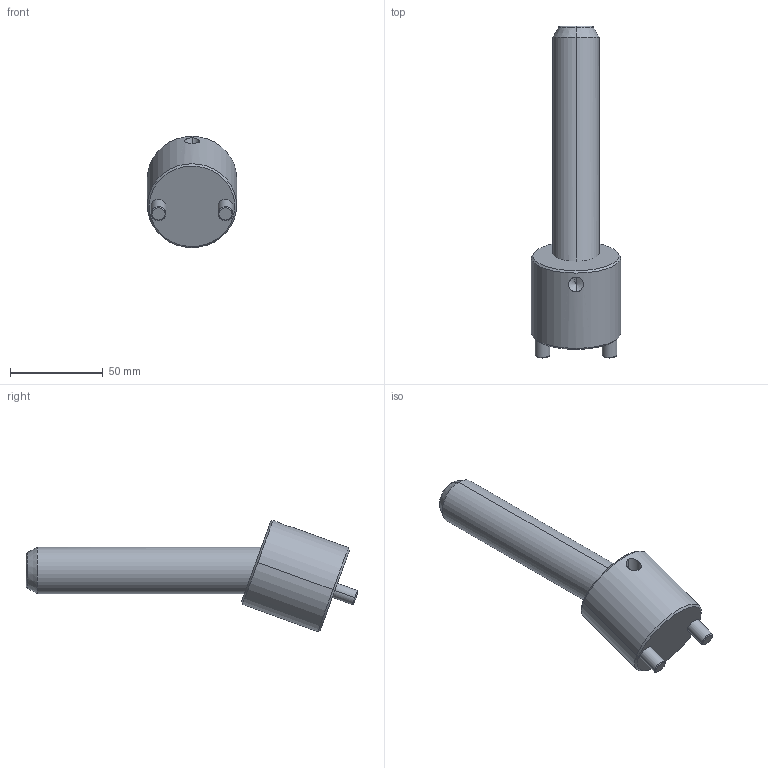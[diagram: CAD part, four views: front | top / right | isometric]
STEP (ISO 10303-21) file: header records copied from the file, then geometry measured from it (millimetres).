
FILE_DESCRIPTION(('CATIA V5 STEP Exchange'),'2;1');
FILE_NAME('C:\Users\Raffaele\Desktop\3D BOLEX\3D FILES CF BOLEX\19-INCLINED ASSEMBLY REF_CI\CI2025125.stp','2019-06-24T06:43:35+00:00',('none'),('none'),'CATIA Version 5 Release 20 GA (IN-10)','CATIA V5 STEP AP203','none');
FILE_SCHEMA(('CONFIG_CONTROL_DESIGN'));
Length unit declared in the file: millimetre
Products named in the file (1): CI2025125
Assembly tree (2 placements, depth 2):
  CI2025125
    #58
    #602
Bounding box: 48 x 178.47 x 59.81 mm (x, y, z)
Volume: 140519.6 mm3; surface area: 27349 mm2
Topology: 2 solids, 2 shells, 39 faces, 82 edges, 47 vertices
Faces by surface type: cone 14, cylinder 14, plane 7, torus 4
Entity records: 1521 total; most frequent: CARTESIAN_POINT 662, ORIENTED_EDGE 160, DIRECTION 145, EDGE_CURVE 80, AXIS2_PLACEMENT_3D 72, VERTEX_POINT 47, EDGE_LOOP 43, ADVANCED_FACE 39
